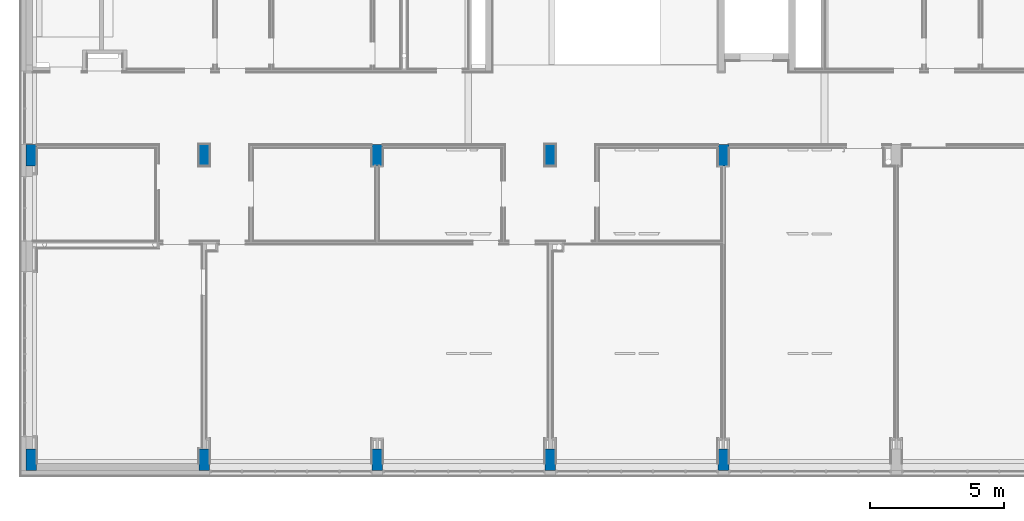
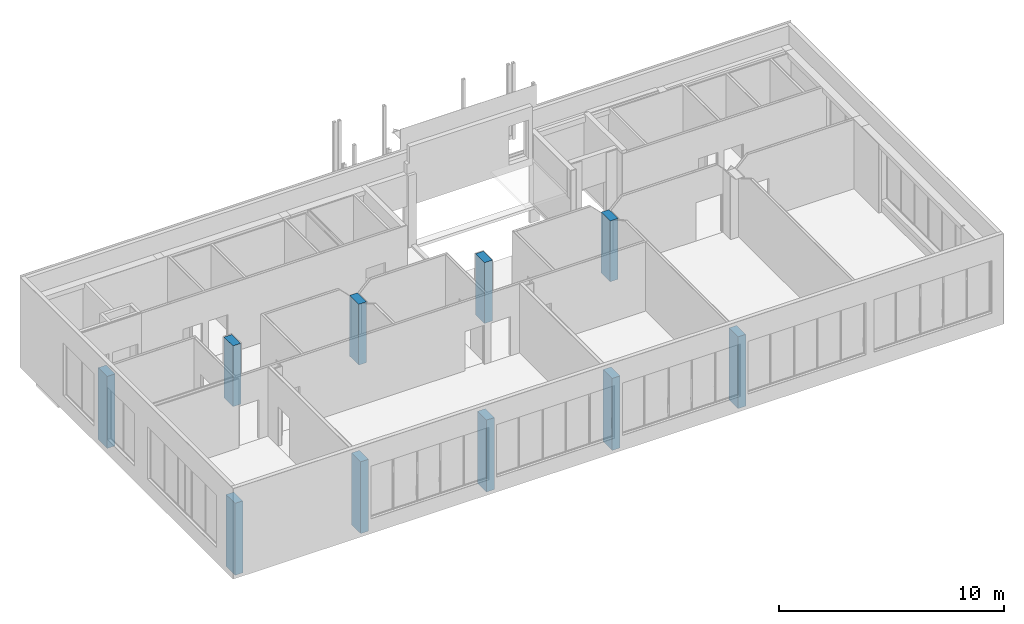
# One storey, part 1 of 29: 10 columns.
"""IFC2X3 building model written with IfcOpenShell, lengths in centimetres."""

from ifc_helpers import new_model, entity, si_unit, converted_unit, derived_unit, direction, frame, frame_2d, origin, origin_2d_with_axis, place, context, subcontext, project, spatial, rectangle, extrude, source, transform, mapped, material, type_object, type_shapes, element, save


model = new_model("IFC2X3")

# Units and contexts
model_context = context("Model", 3, precision=0.001, world=origin(), true_north=direction((6.12303176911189e-17, 1.0)))
body_context = subcontext(model_context, "Body", "Model", "MODEL_VIEW")
ifc_project = project(units=[si_unit("LENGTHUNIT", "METRE", prefix="CENTI"), si_unit("AREAUNIT", "SQUARE_METRE"), si_unit("VOLUMEUNIT", "CUBIC_METRE"), converted_unit("PLANEANGLEUNIT", "DEGREE", entity("IfcRatioMeasure", 0.0174532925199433), si_unit("PLANEANGLEUNIT", "RADIAN"), dimensions=[0, 0, 0, 0, 0, 0, 0]), si_unit("MASSUNIT", "GRAM", prefix="KILO"), derived_unit("MASSDENSITYUNIT", [(si_unit("MASSUNIT", "GRAM", prefix="KILO"), 1), (si_unit("LENGTHUNIT", "METRE"), -3)]), derived_unit("MOMENTOFINERTIAUNIT", [(si_unit("LENGTHUNIT", "METRE"), 4)]), si_unit("TIMEUNIT", "SECOND"), si_unit("FREQUENCYUNIT", "HERTZ"), si_unit("THERMODYNAMICTEMPERATUREUNIT", "DEGREE_CELSIUS"), derived_unit("THERMALTRANSMITTANCEUNIT", [(si_unit("MASSUNIT", "GRAM", prefix="KILO"), 1), (si_unit("THERMODYNAMICTEMPERATUREUNIT", "KELVIN"), -1), (si_unit("TIMEUNIT", "SECOND"), -3)]), derived_unit("VOLUMETRICFLOWRATEUNIT", [(si_unit("LENGTHUNIT", "METRE"), 3), (si_unit("TIMEUNIT", "SECOND"), -1)]), si_unit("ELECTRICCURRENTUNIT", "AMPERE"), si_unit("ELECTRICVOLTAGEUNIT", "VOLT"), si_unit("POWERUNIT", "WATT"), si_unit("FORCEUNIT", "NEWTON", prefix="KILO"), si_unit("ILLUMINANCEUNIT", "LUX"), si_unit("LUMINOUSFLUXUNIT", "LUMEN"), si_unit("LUMINOUSINTENSITYUNIT", "CANDELA"), derived_unit("USERDEFINED", [(si_unit("MASSUNIT", "GRAM", prefix="KILO"), -1), (si_unit("LENGTHUNIT", "METRE"), -2), (si_unit("TIMEUNIT", "SECOND"), 3), (si_unit("LUMINOUSFLUXUNIT", "LUMEN"), 1)]), derived_unit("LINEARVELOCITYUNIT", [(si_unit("LENGTHUNIT", "METRE"), 1), (si_unit("TIMEUNIT", "SECOND"), -1)]), si_unit("PRESSUREUNIT", "PASCAL"), derived_unit("USERDEFINED", [(si_unit("LENGTHUNIT", "METRE"), -2), (si_unit("MASSUNIT", "GRAM", prefix="KILO"), 1), (si_unit("TIMEUNIT", "SECOND"), -2)]), derived_unit("LINEARFORCEUNIT", [(si_unit("MASSUNIT", "GRAM", prefix="KILO"), 1), (si_unit("LENGTHUNIT", "METRE"), 1), (si_unit("TIMEUNIT", "SECOND"), -2), (si_unit("LENGTHUNIT", "METRE"), -1)]), derived_unit("PLANARFORCEUNIT", [(si_unit("MASSUNIT", "GRAM", prefix="KILO"), 1), (si_unit("LENGTHUNIT", "METRE"), 1), (si_unit("TIMEUNIT", "SECOND"), -2), (si_unit("LENGTHUNIT", "METRE"), -2)])], contexts=[model_context])

# Site, building, storey
site_placement = place(None, origin())
site = spatial("IfcSite", under=ifc_project, at=site_placement, Name="Default", CompositionType="ELEMENT")
building_placement = place(site_placement, origin())
building = spatial("IfcBuilding", under=site, at=building_placement, CompositionType="ELEMENT")
storey_placement = place(building_placement, frame((0.0, 0.0, 545.0)))
storey = spatial("IfcBuildingStorey", under=building, at=storey_placement, Name="Poziom 1K +5,45", CompositionType="ELEMENT", Elevation=544.999999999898)

# Columns
ifc_material = material(Name="_Beton, C25/30")
column_type_1 = type_object("IfcColumnType", Name="Beton-słup prostokątny:Słup 40 x 80 cm", PredefinedType="COLUMN", material=ifc_material)
shared_shape_1 = source(origin(), body_context, "Body", "SweptSolid", [
    extrude(rectangle(XDim=80.0, YDim=40.0, at=frame_2d((0.0, -2.16715534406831e-13), x_axis=(1.0, 0.0))), frame((-2914.26510657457, 1430.12745208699, 545.0), z_axis=(0.0, 0.0, 1.0), x_axis=(0.0, -1.0, 0.0)), (0.0, 0.0, 1.0), 390.000000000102),
])
type_shapes(column_type_1, [shared_shape_1])
column_1_placement = place(storey_placement, frame((0.0, 0.0, -545.0)))
element("IfcColumn", 1, at=column_1_placement, inside=storey, type_object=column_type_1, Name="Beton-słup prostokątny:Słup 40 x 80 cm", ObjectType="Beton-słup prostokątny:Słup 40 x 80 cm", context=body_context, shape_type="MappedRepresentation", body=[
    mapped(shared_shape_1, transform((0.0, 0.0, 0.0), scale=1.0)),
])
column_type_2 = type_object("IfcColumnType", Name="Beton-słup prostokątny:Słup 40 x 80 cm", PredefinedType="COLUMN", material=ifc_material)
shared_shape_2 = source(origin(), body_context, "Body", "SweptSolid", [
    extrude(rectangle(XDim=80.0, YDim=40.0, at=frame_2d((0.0, -2.16715534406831e-13), x_axis=(1.0, 0.0))), frame((-2269.26510660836, 1430.12745208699, 545.0), z_axis=(0.0, 0.0, 1.0), x_axis=(0.0, -1.0, 0.0)), (0.0, 0.0, 1.0), 330.000000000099),
])
type_shapes(column_type_2, [shared_shape_2])
column_2_placement = place(storey_placement, frame((0.0, 0.0, -545.0)))
element("IfcColumn", 2, at=column_2_placement, inside=storey, type_object=column_type_2, Name="Beton-słup prostokątny:Słup 40 x 80 cm", ObjectType="Beton-słup prostokątny:Słup 40 x 80 cm", context=body_context, shape_type="MappedRepresentation", body=[
    mapped(shared_shape_2, transform((0.0, 0.0, 0.0), scale=1.0)),
])
column_type_3 = type_object("IfcColumnType", Name="Beton-słup prostokątny:Słup 40 x 80 cm", PredefinedType="COLUMN", material=ifc_material)
shared_shape_3 = source(origin(), body_context, "Body", "SweptSolid", [
    extrude(rectangle(XDim=80.0, YDim=40.0, at=origin_2d_with_axis()), frame((-1624.26510901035, 1430.12745208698, 545.0), z_axis=(0.0, 0.0, 1.0), x_axis=(0.0, -1.0, 0.0)), (0.0, 0.0, 1.0), 330.000000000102),
])
type_shapes(column_type_3, [shared_shape_3])
column_3_placement = place(storey_placement, frame((0.0, 0.0, -545.0)))
element("IfcColumn", 3, at=column_3_placement, inside=storey, type_object=column_type_3, Name="Beton-słup prostokątny:Słup 40 x 80 cm", ObjectType="Beton-słup prostokątny:Słup 40 x 80 cm", context=body_context, shape_type="MappedRepresentation", body=[
    mapped(shared_shape_3, transform((0.0, 0.0, 0.0), scale=1.0)),
])
column_type_4 = type_object("IfcColumnType", Name="Beton-słup prostokątny:Słup 40 x 80 cm", PredefinedType="COLUMN", material=ifc_material)
shared_shape_4 = source(origin(), body_context, "Body", "SweptSolid", [
    extrude(rectangle(XDim=80.0, YDim=40.0, at=origin_2d_with_axis()), frame((-979.265109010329, 1430.12745208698, 545.0), z_axis=(0.0, 0.0, 1.0), x_axis=(0.0, -1.0, 0.0)), (0.0, 0.0, 1.0), 330.000000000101),
])
type_shapes(column_type_4, [shared_shape_4])
column_4_placement = place(storey_placement, frame((0.0, 0.0, -545.0)))
element("IfcColumn", 4, at=column_4_placement, inside=storey, type_object=column_type_4, Name="Beton-słup prostokątny:Słup 40 x 80 cm", ObjectType="Beton-słup prostokątny:Słup 40 x 80 cm", context=body_context, shape_type="MappedRepresentation", body=[
    mapped(shared_shape_4, transform((0.0, 0.0, 0.0), scale=1.0)),
])
column_type_5 = type_object("IfcColumnType", Name="Beton-słup prostokątny:Słup 40 x 80 cm", PredefinedType="COLUMN", material=ifc_material)
shared_shape_5 = source(origin(), body_context, "Body", "SweptSolid", [
    extrude(rectangle(XDim=80.0, YDim=40.0, at=origin_2d_with_axis()), frame((-334.265109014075, 1430.12745208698, 545.0), z_axis=(0.0, 0.0, 1.0), x_axis=(0.0, -1.0, 0.0)), (0.0, 0.0, 1.0), 330.000000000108),
])
type_shapes(column_type_5, [shared_shape_5])
column_5_placement = place(storey_placement, frame((0.0, 0.0, -545.0)))
element("IfcColumn", 5, at=column_5_placement, inside=storey, type_object=column_type_5, Name="Beton-słup prostokątny:Słup 40 x 80 cm", ObjectType="Beton-słup prostokątny:Słup 40 x 80 cm", context=body_context, shape_type="MappedRepresentation", body=[
    mapped(shared_shape_5, transform((0.0, 0.0, 0.0), scale=1.0)),
])
column_type_6 = type_object("IfcColumnType", Name="Beton-słup prostokątny:Słup 40 x 80 cm", PredefinedType="COLUMN", material=ifc_material)
shared_shape_6 = source(origin(), body_context, "Body", "SweptSolid", [
    extrude(rectangle(XDim=80.0, YDim=40.0, at=origin_2d_with_axis()), frame((-334.265106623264, 295.127657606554, 545.0), z_axis=(0.0, 0.0, 1.0), x_axis=(0.0, -1.0, 0.0)), (0.0, 0.0, 1.0), 390.000000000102),
])
type_shapes(column_type_6, [shared_shape_6])
column_6_placement = place(storey_placement, frame((0.0, 0.0, -545.0)))
element("IfcColumn", 6, at=column_6_placement, inside=storey, type_object=column_type_6, Name="Beton-słup prostokątny:Słup 40 x 80 cm", ObjectType="Beton-słup prostokątny:Słup 40 x 80 cm", context=body_context, shape_type="MappedRepresentation", body=[
    mapped(shared_shape_6, transform((0.0, 0.0, 0.0), scale=1.0)),
])
column_type_7 = type_object("IfcColumnType", Name="Beton-słup prostokątny:Słup 40 x 80 cm", PredefinedType="COLUMN", material=ifc_material)
shared_shape_7 = source(origin(), body_context, "Body", "SweptSolid", [
    extrude(rectangle(XDim=80.0, YDim=40.0, at=origin_2d_with_axis()), frame((-979.265106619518, 295.127657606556, 545.0), z_axis=(0.0, 0.0, 1.0), x_axis=(0.0, -1.0, 0.0)), (0.0, 0.0, 1.0), 390.000000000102),
])
type_shapes(column_type_7, [shared_shape_7])
column_7_placement = place(storey_placement, frame((0.0, 0.0, -545.0)))
element("IfcColumn", 7, at=column_7_placement, inside=storey, type_object=column_type_7, Name="Beton-słup prostokątny:Słup 40 x 80 cm", ObjectType="Beton-słup prostokątny:Słup 40 x 80 cm", context=body_context, shape_type="MappedRepresentation", body=[
    mapped(shared_shape_7, transform((0.0, 0.0, 0.0), scale=1.0)),
])
column_type_8 = type_object("IfcColumnType", Name="Beton-słup prostokątny:Słup 40 x 80 cm", PredefinedType="COLUMN", material=ifc_material)
shared_shape_8 = source(origin(), body_context, "Body", "SweptSolid", [
    extrude(rectangle(XDim=80.0, YDim=40.0, at=origin_2d_with_axis()), frame((-1624.26510661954, 295.127657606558, 545.0), z_axis=(0.0, 0.0, 1.0), x_axis=(0.0, -1.0, 0.0)), (0.0, 0.0, 1.0), 390.000000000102),
])
type_shapes(column_type_8, [shared_shape_8])
column_8_placement = place(storey_placement, frame((0.0, 0.0, -545.0)))
element("IfcColumn", 8, at=column_8_placement, inside=storey, type_object=column_type_8, Name="Beton-słup prostokątny:Słup 40 x 80 cm", ObjectType="Beton-słup prostokątny:Słup 40 x 80 cm", context=body_context, shape_type="MappedRepresentation", body=[
    mapped(shared_shape_8, transform((0.0, 0.0, 0.0), scale=1.0)),
])
column_type_9 = type_object("IfcColumnType", Name="Beton-słup prostokątny:Słup 40 x 80 cm", PredefinedType="COLUMN", material=ifc_material)
shared_shape_9 = source(origin(), body_context, "Body", "SweptSolid", [
    extrude(rectangle(XDim=80.0, YDim=40.0, at=frame_2d((0.0, -2.16715534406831e-13), x_axis=(1.0, 0.0))), frame((-2269.26510661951, 295.12765760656, 545.0), z_axis=(0.0, 0.0, 1.0), x_axis=(0.0, -1.0, 0.0)), (0.0, 0.0, 1.0), 390.000000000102),
])
type_shapes(column_type_9, [shared_shape_9])
column_9_placement = place(storey_placement, frame((0.0, 0.0, -545.0)))
element("IfcColumn", 9, at=column_9_placement, inside=storey, type_object=column_type_9, Name="Beton-słup prostokątny:Słup 40 x 80 cm", ObjectType="Beton-słup prostokątny:Słup 40 x 80 cm", context=body_context, shape_type="MappedRepresentation", body=[
    mapped(shared_shape_9, transform((0.0, 0.0, 0.0), scale=1.0)),
])
column_type_10 = type_object("IfcColumnType", Name="Beton-słup prostokątny:Słup 40 x 80 cm", PredefinedType="COLUMN", material=ifc_material)
shared_shape_10 = source(origin(), body_context, "Body", "SweptSolid", [
    extrude(rectangle(XDim=80.0, YDim=40.0, at=frame_2d((0.0, -2.16715534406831e-13), x_axis=(1.0, 0.0))), frame((-2914.2651058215, 295.127657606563, 545.0), z_axis=(0.0, 0.0, 1.0), x_axis=(0.0, -1.0, 0.0)), (0.0, 0.0, 1.0), 390.000000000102),
])
type_shapes(column_type_10, [shared_shape_10])
column_10_placement = place(storey_placement, frame((0.0, 0.0, -545.0)))
element("IfcColumn", 10, at=column_10_placement, inside=storey, type_object=column_type_10, Name="Beton-słup prostokątny:Słup 40 x 80 cm", ObjectType="Beton-słup prostokątny:Słup 40 x 80 cm", context=body_context, shape_type="MappedRepresentation", body=[
    mapped(shared_shape_10, transform((0.0, 0.0, 0.0), scale=1.0)),
])

save(model, "model.ifc")
